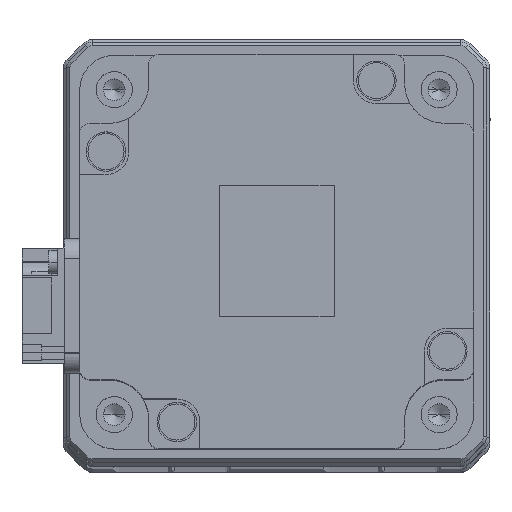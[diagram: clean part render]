
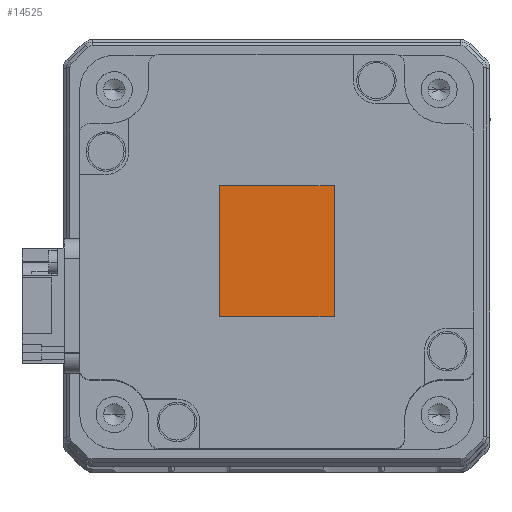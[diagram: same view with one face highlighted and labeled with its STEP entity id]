
A CAD part, top view. The second image highlights one B-rep face of the part: STEP entity #14525.
In plain terms, the highlighted planar face has unit normal (0, 0, 1) as drawn and (0, 0, -1) by its records, which use the part's own axes.
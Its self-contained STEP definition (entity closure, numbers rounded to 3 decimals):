
#760 = CARTESIAN_POINT ( 'NONE',  ( 10., -8.75, -80.1 ) ) ;
#1520 = VERTEX_POINT ( 'NONE', #7631 ) ;
#2352 = EDGE_CURVE ( 'NONE', #28466, #1520, #26623, .T. ) ;
#3964 = EDGE_CURVE ( 'NONE', #20584, #13635, #19979, .T. ) ;
#4125 = ORIENTED_EDGE ( 'NONE', *, *, #17922, .T. ) ;
#5597 = DIRECTION ( 'NONE',  ( 0., 1., 0. ) ) ;
#5812 = PLANE ( 'NONE',  #24972 ) ;
#5921 = DIRECTION ( 'NONE',  ( 0., 0., -1. ) ) ;
#6281 = CARTESIAN_POINT ( 'NONE',  ( 10., -8.75, -80.1 ) ) ;
#7084 = DIRECTION ( 'NONE',  ( 0., -1., 0. ) ) ;
#7631 = CARTESIAN_POINT ( 'NONE',  ( -10., -8.75, -80.1 ) ) ;
#8097 = ORIENTED_EDGE ( 'NONE', *, *, #2352, .T. ) ;
#9546 = FACE_OUTER_BOUND ( 'NONE', #14151, .T. ) ;
#9673 = ORIENTED_EDGE ( 'NONE', *, *, #23616, .T. ) ;
#11247 = VECTOR ( 'NONE', #7084, 1000. ) ;
#13097 = VECTOR ( 'NONE', #13957, 1000. ) ;
#13635 = VERTEX_POINT ( 'NONE', #30520 ) ;
#13957 = DIRECTION ( 'NONE',  ( 1., 0., 0. ) ) ;
#14151 = EDGE_LOOP ( 'NONE', ( #9673, #14948, #4125, #8097 ) ) ;
#14525 = ADVANCED_FACE ( 'NONE', ( #9546 ), #5812, .T. ) ;
#14948 = ORIENTED_EDGE ( 'NONE', *, *, #3964, .T. ) ;
#17922 = EDGE_CURVE ( 'NONE', #13635, #28466, #24257, .T. ) ;
#18514 = CARTESIAN_POINT ( 'NONE',  ( -10., 8.75, -80.1 ) ) ;
#19656 = VECTOR ( 'NONE', #23528, 1000. ) ;
#19979 = LINE ( 'NONE', #21681, #13097 ) ;
#20584 = VERTEX_POINT ( 'NONE', #29174 ) ;
#21681 = CARTESIAN_POINT ( 'NONE',  ( 10., 8.75, -80.1 ) ) ;
#23528 = DIRECTION ( 'NONE',  ( -1., 0., 0. ) ) ;
#23616 = EDGE_CURVE ( 'NONE', #1520, #20584, #25966, .T. ) ;
#24070 = DIRECTION ( 'NONE',  ( -1., 0., 0. ) ) ;
#24257 = LINE ( 'NONE', #25283, #11247 ) ;
#24972 = AXIS2_PLACEMENT_3D ( 'NONE', #760, #5921, #24070 ) ;
#25124 = VECTOR ( 'NONE', #5597, 1000. ) ;
#25283 = CARTESIAN_POINT ( 'NONE',  ( 10., 8.75, -80.1 ) ) ;
#25966 = LINE ( 'NONE', #18514, #25124 ) ;
#26623 = LINE ( 'NONE', #31281, #19656 ) ;
#28466 = VERTEX_POINT ( 'NONE', #6281 ) ;
#29174 = CARTESIAN_POINT ( 'NONE',  ( -10., 8.75, -80.1 ) ) ;
#30520 = CARTESIAN_POINT ( 'NONE',  ( 10., 8.75, -80.1 ) ) ;
#31281 = CARTESIAN_POINT ( 'NONE',  ( 10., -8.75, -80.1 ) ) ;
